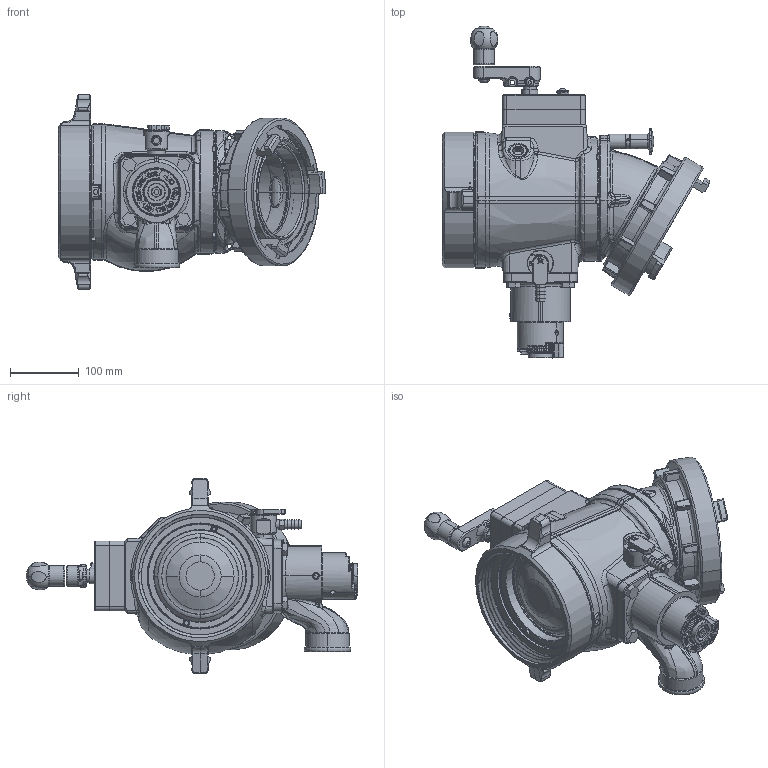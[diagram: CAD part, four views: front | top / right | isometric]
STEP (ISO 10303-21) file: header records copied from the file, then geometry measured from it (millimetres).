
FILE_DESCRIPTION (( 'STEP AP203' ), '1' );
FILE_NAME ('AX3SX-NX-PS.step', '2014-05-13T19:24:00', ( 'user' ), ( '' ), 'SwSTEP 2.0', 'SolidWorks 2012', '' );
FILE_SCHEMA (( 'CONFIG_CONTROL_DESIGN' ));
Length unit declared in the file: inch
Products named in the file (1): AX3SX-NX-PS
Bounding box: 387.95 x 481.84 x 283.46 mm (x, y, z)
Surface area: 701329.1 mm2 (no closed solid volume)
Topology: 0 solids, 69 shells, 1821 faces, 5802 edges, 3892 vertices
Faces by surface type: plane 484, cylinder 458, bspline 384, cone 292, torus 153, sphere 50
Entity records: 116380 total; most frequent: CARTESIAN_POINT 70269, ORIENTED_EDGE 9784, DIRECTION 8488, EDGE_CURVE 5758, VERTEX_POINT 3885, AXIS2_PLACEMENT_3D 3191, LINE 2106, VECTOR 2106
